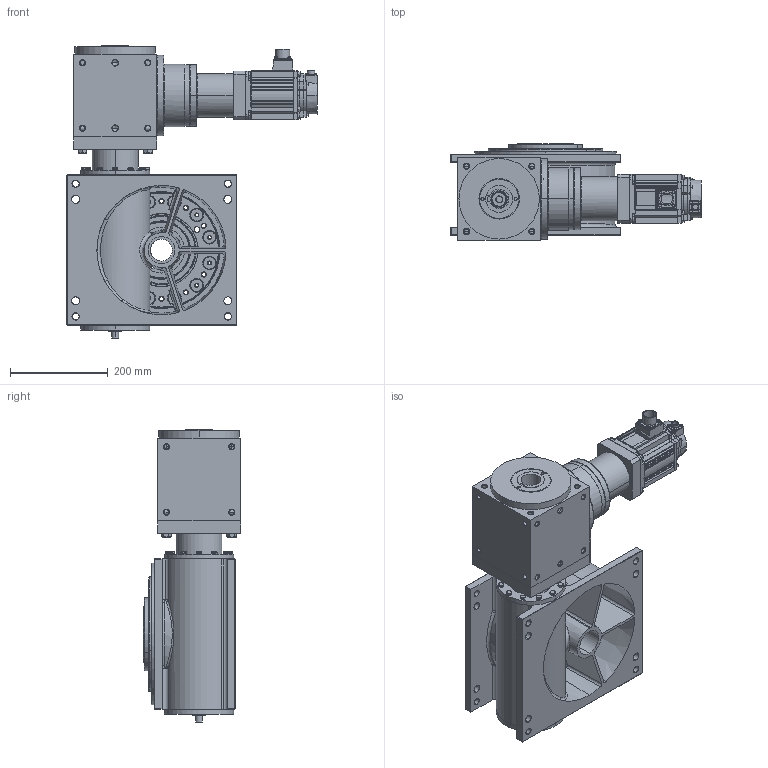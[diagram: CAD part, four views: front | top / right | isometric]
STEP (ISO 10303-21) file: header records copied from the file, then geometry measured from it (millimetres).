
FILE_DESCRIPTION (( 'STEP AP214' ), '1' );
FILE_NAME ('M235_APEX_Yaskawa_12.STEP', '2020-06-17T04:51:14', ( '' ), ( '' ), 'SwSTEP 2.0', 'SolidWorks 2020', '' );
FILE_SCHEMA (( 'AUTOMOTIVE_DESIGN' ));
Length unit declared in the file: millimetre
Products named in the file (1): M235_APEX_Yaskawa_12
Bounding box: 513.1 x 199 x 599.75 mm (x, y, z)
Surface area: 1214611.7 mm2 (no closed solid volume)
Topology: 0 solids, 118 shells, 1740 faces, 5105 edges, 3366 vertices
Faces by surface type: plane 638, cylinder 576, cone 364, bspline 103, torus 51, sphere 8
Entity records: 84999 total; most frequent: CARTESIAN_POINT 20357, DIRECTION 9759, ORIENTED_EDGE 8580, EDGE_CURVE 5067, AXIS2_PLACEMENT_3D 3665, VERTEX_POINT 3366, VECTOR 2429, LINE 2429
